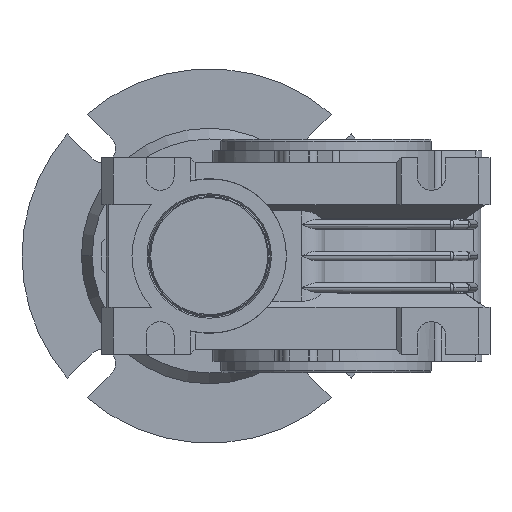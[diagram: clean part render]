
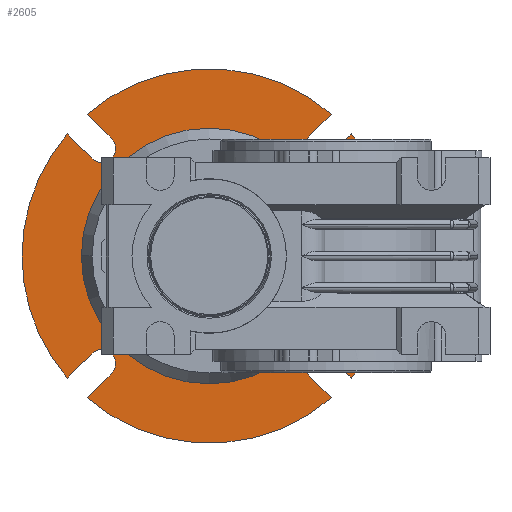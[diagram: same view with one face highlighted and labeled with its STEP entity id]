
A CAD part, left-side view. The second image highlights one B-rep face of the part: STEP entity #2605.
In plain terms, the highlighted planar face has unit normal (-1, 0, 0).
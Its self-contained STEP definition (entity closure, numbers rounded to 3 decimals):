
#2605=ADVANCED_FACE('',(#5234,#5235),#5236,.T.);
#5234=FACE_BOUND('',#8552,.T.);
#5235=FACE_OUTER_BOUND('',#8553,.T.);
#5236=PLANE('',#8554);
#8552=EDGE_LOOP('',(#16452,#16453));
#8553=EDGE_LOOP('',(#16454,#16455,#16456,#16457,#16458,#16459,#16460,#16461,#16462,#16463,#16464,#16465,#16466,#16467,#16468,#16469,#16470,#16471,#16472,#16473,#16474,#16475));
#8554=AXIS2_PLACEMENT_3D('',#16476,#16477,#16478);
#16452=ORIENTED_EDGE('',*,*,#19753,.F.);
#16453=ORIENTED_EDGE('',*,*,#19743,.F.);
#16454=ORIENTED_EDGE('',*,*,#19779,.T.);
#16455=ORIENTED_EDGE('',*,*,#19701,.T.);
#16456=ORIENTED_EDGE('',*,*,#19804,.T.);
#16457=ORIENTED_EDGE('',*,*,#19810,.T.);
#16458=ORIENTED_EDGE('',*,*,#19828,.T.);
#16459=ORIENTED_EDGE('',*,*,#19815,.T.);
#16460=ORIENTED_EDGE('',*,*,#19774,.T.);
#16461=ORIENTED_EDGE('',*,*,#19713,.T.);
#16462=ORIENTED_EDGE('',*,*,#19822,.T.);
#16463=ORIENTED_EDGE('',*,*,#19829,.T.);
#16464=ORIENTED_EDGE('',*,*,#19698,.T.);
#16465=ORIENTED_EDGE('',*,*,#19824,.T.);
#16466=ORIENTED_EDGE('',*,*,#19770,.T.);
#16467=ORIENTED_EDGE('',*,*,#19718,.T.);
#16468=ORIENTED_EDGE('',*,*,#19796,.T.);
#16469=ORIENTED_EDGE('',*,*,#19830,.T.);
#16470=ORIENTED_EDGE('',*,*,#19791,.T.);
#16471=ORIENTED_EDGE('',*,*,#19706,.T.);
#16472=ORIENTED_EDGE('',*,*,#19788,.T.);
#16473=ORIENTED_EDGE('',*,*,#19783,.T.);
#16474=ORIENTED_EDGE('',*,*,#19721,.T.);
#16475=ORIENTED_EDGE('',*,*,#19768,.T.);
#16476=CARTESIAN_POINT('',(966.173,-830.78,-2064.246));
#16477=DIRECTION('',(-1.0,0.0,0.));
#16478=DIRECTION('',(0.0,1.0,0.0));
#19698=EDGE_CURVE('',#24240,#24244,#24246,.T.);
#19701=EDGE_CURVE('',#24251,#24248,#24252,.T.);
#19706=EDGE_CURVE('',#24260,#24257,#24261,.T.);
#19713=EDGE_CURVE('',#24267,#24271,#24273,.T.);
#19718=EDGE_CURVE('',#24276,#24280,#24282,.T.);
#19721=EDGE_CURVE('',#24287,#24284,#24288,.T.);
#19743=EDGE_CURVE('',#24325,#24321,#24327,.T.);
#19753=EDGE_CURVE('',#24321,#24325,#24341,.T.);
#19768=EDGE_CURVE('',#24284,#24358,#24360,.T.);
#19770=EDGE_CURVE('',#24362,#24276,#24363,.T.);
#19774=EDGE_CURVE('',#24368,#24267,#24369,.T.);
#19779=EDGE_CURVE('',#24358,#24251,#24375,.T.);
#19783=EDGE_CURVE('',#24379,#24287,#24380,.T.);
#19788=EDGE_CURVE('',#24257,#24379,#24386,.T.);
#19791=EDGE_CURVE('',#24390,#24260,#24391,.T.);
#19796=EDGE_CURVE('',#24280,#24398,#24399,.T.);
#19804=EDGE_CURVE('',#24248,#24410,#24412,.T.);
#19810=EDGE_CURVE('',#24410,#24420,#24422,.T.);
#19815=EDGE_CURVE('',#24430,#24368,#24431,.T.);
#19822=EDGE_CURVE('',#24271,#24440,#24442,.T.);
#19824=EDGE_CURVE('',#24244,#24362,#24444,.T.);
#19828=EDGE_CURVE('',#24420,#24430,#24448,.T.);
#19829=EDGE_CURVE('',#24440,#24240,#24449,.T.);
#19830=EDGE_CURVE('',#24398,#24390,#24450,.T.);
#24240=VERTEX_POINT('',#31182);
#24244=VERTEX_POINT('',#31187);
#24246=CIRCLE('',#31190,40.0);
#24248=VERTEX_POINT('',#31192);
#24251=VERTEX_POINT('',#31196);
#24252=CIRCLE('',#31197,3.003);
#24257=VERTEX_POINT('',#31203);
#24260=VERTEX_POINT('',#31207);
#24261=CIRCLE('',#31208,3.003);
#24267=VERTEX_POINT('',#31215);
#24271=VERTEX_POINT('',#31220);
#24273=CIRCLE('',#31223,3.003);
#24276=VERTEX_POINT('',#31226);
#24280=VERTEX_POINT('',#31231);
#24282=CIRCLE('',#31234,3.003);
#24284=VERTEX_POINT('',#31236);
#24287=VERTEX_POINT('',#31240);
#24288=CIRCLE('',#31241,40.0);
#24321=VERTEX_POINT('',#31281);
#24325=VERTEX_POINT('',#31286);
#24327=CIRCLE('',#31289,27.31);
#24341=CIRCLE('',#31305,27.31);
#24358=VERTEX_POINT('',#31323);
#24360=CIRCLE('',#31326,40.0);
#24362=VERTEX_POINT('',#31328);
#24363=CIRCLE('',#31329,3.003);
#24368=VERTEX_POINT('',#31335);
#24369=CIRCLE('',#31336,3.003);
#24375=LINE('',#31344,#31345);
#24379=VERTEX_POINT('',#31351);
#24380=LINE('',#31352,#31353);
#24386=CIRCLE('',#31361,3.003);
#24390=VERTEX_POINT('',#31366);
#24391=LINE('',#31367,#31368);
#24398=VERTEX_POINT('',#31378);
#24399=LINE('',#31379,#31380);
#24410=VERTEX_POINT('',#31395);
#24412=CIRCLE('',#31398,3.003);
#24420=VERTEX_POINT('',#31409);
#24422=LINE('',#31412,#31413);
#24430=VERTEX_POINT('',#31424);
#24431=LINE('',#31425,#31426);
#24440=VERTEX_POINT('',#31439);
#24442=LINE('',#31442,#31443);
#24444=LINE('',#31445,#31446);
#24448=CIRCLE('',#31452,40.0);
#24449=CIRCLE('',#31453,40.0);
#24450=CIRCLE('',#31454,40.0);
#31182=CARTESIAN_POINT('',(966.173,-904.435,-2064.246));
#31187=CARTESIAN_POINT('',(966.173,-894.761,-2038.163));
#31190=AXIS2_PLACEMENT_3D('',#34982,#34983,#34984);
#31192=CARTESIAN_POINT('',(966.173,-844.457,-2087.227));
#31196=CARTESIAN_POINT('',(966.173,-839.234,-2085.204));
#31197=AXIS2_PLACEMENT_3D('',#34986,#34987,#34988);
#31203=CARTESIAN_POINT('',(966.173,-844.457,-2041.265));
#31207=CARTESIAN_POINT('',(966.173,-843.477,-2039.046));
#31208=AXIS2_PLACEMENT_3D('',#34994,#34995,#34996);
#31215=CARTESIAN_POINT('',(966.173,-884.412,-2087.227));
#31220=CARTESIAN_POINT('',(966.173,-889.635,-2085.204));
#31223=AXIS2_PLACEMENT_3D('',#35006,#35007,#35008);
#31226=CARTESIAN_POINT('',(966.173,-884.412,-2041.265));
#31231=CARTESIAN_POINT('',(966.173,-885.392,-2039.046));
#31234=AXIS2_PLACEMENT_3D('',#35014,#35015,#35016);
#31236=CARTESIAN_POINT('',(966.173,-824.435,-2064.246));
#31240=CARTESIAN_POINT('',(966.173,-834.109,-2038.163));
#31241=AXIS2_PLACEMENT_3D('',#35018,#35019,#35020);
#31281=CARTESIAN_POINT('',(966.173,-837.125,-2064.246));
#31286=CARTESIAN_POINT('',(966.173,-891.745,-2064.246));
#31289=AXIS2_PLACEMENT_3D('',#35054,#35055,#35056);
#31305=AXIS2_PLACEMENT_3D('',#35071,#35072,#35073);
#31323=CARTESIAN_POINT('',(966.173,-834.109,-2090.329));
#31326=AXIS2_PLACEMENT_3D('',#35100,#35101,#35102);
#31328=CARTESIAN_POINT('',(966.173,-889.635,-2043.288));
#31329=AXIS2_PLACEMENT_3D('',#35103,#35104,#35105);
#31335=CARTESIAN_POINT('',(966.173,-885.392,-2089.446));
#31336=AXIS2_PLACEMENT_3D('',#35110,#35111,#35112);
#31344=CARTESIAN_POINT('',(966.173,-841.079,-2083.359));
#31345=VECTOR('',#35118,1000.0);
#31351=CARTESIAN_POINT('',(966.173,-839.234,-2043.288));
#31352=CARTESIAN_POINT('',(966.173,-841.079,-2045.133));
#31353=VECTOR('',#35121,1000.0);
#31361=AXIS2_PLACEMENT_3D('',#35127,#35128,#35129);
#31366=CARTESIAN_POINT('',(966.173,-838.351,-2033.92));
#31367=CARTESIAN_POINT('',(966.173,-845.321,-2040.89));
#31368=VECTOR('',#35131,1000.0);
#31378=CARTESIAN_POINT('',(966.173,-890.518,-2033.92));
#31379=CARTESIAN_POINT('',(966.173,-866.721,-2057.717));
#31380=VECTOR('',#35135,1000.0);
#31395=CARTESIAN_POINT('',(966.173,-843.477,-2089.446));
#31398=AXIS2_PLACEMENT_3D('',#35144,#35145,#35146);
#31409=CARTESIAN_POINT('',(966.173,-838.351,-2094.572));
#31412=CARTESIAN_POINT('',(966.173,-845.321,-2087.602));
#31413=VECTOR('',#35151,1000.0);
#31424=CARTESIAN_POINT('',(966.173,-890.518,-2094.572));
#31425=CARTESIAN_POINT('',(966.173,-866.721,-2070.774));
#31426=VECTOR('',#35155,1000.0);
#31439=CARTESIAN_POINT('',(966.173,-894.761,-2090.329));
#31442=CARTESIAN_POINT('',(966.173,-870.963,-2066.532));
#31443=VECTOR('',#35161,1000.0);
#31445=CARTESIAN_POINT('',(966.173,-870.963,-2061.96));
#31446=VECTOR('',#35162,1000.0);
#31452=AXIS2_PLACEMENT_3D('',#35165,#35166,#35167);
#31453=AXIS2_PLACEMENT_3D('',#35168,#35169,#35170);
#31454=AXIS2_PLACEMENT_3D('',#35171,#35172,#35173);
#34982=CARTESIAN_POINT('',(966.173,-864.435,-2064.246));
#34983=DIRECTION('',(-1.0,0.0,0.));
#34984=DIRECTION('',(0.0,1.0,0.0));
#34986=CARTESIAN_POINT('',(966.173,-841.454,-2087.227));
#34987=DIRECTION('',(1.0,-0.0,0.));
#34988=DIRECTION('',(0.0,1.0,0.0));
#34994=CARTESIAN_POINT('',(966.173,-841.454,-2041.265));
#34995=DIRECTION('',(1.0,-0.0,0.));
#34996=DIRECTION('',(0.0,1.0,0.0));
#35006=CARTESIAN_POINT('',(966.173,-887.416,-2087.227));
#35007=DIRECTION('',(1.0,-0.0,0.));
#35008=DIRECTION('',(0.0,1.0,0.0));
#35014=CARTESIAN_POINT('',(966.173,-887.416,-2041.265));
#35015=DIRECTION('',(1.0,-0.0,0.));
#35016=DIRECTION('',(0.0,1.0,0.0));
#35018=CARTESIAN_POINT('',(966.173,-864.435,-2064.246));
#35019=DIRECTION('',(-1.0,0.0,0.));
#35020=DIRECTION('',(0.0,1.0,0.0));
#35054=CARTESIAN_POINT('',(966.173,-864.435,-2064.246));
#35055=DIRECTION('',(-1.0,0.0,0.));
#35056=DIRECTION('',(0.0,1.0,0.0));
#35071=CARTESIAN_POINT('',(966.173,-864.435,-2064.246));
#35072=DIRECTION('',(-1.0,0.0,0.));
#35073=DIRECTION('',(0.0,1.0,0.0));
#35100=CARTESIAN_POINT('',(966.173,-864.435,-2064.246));
#35101=DIRECTION('',(-1.0,0.0,0.));
#35102=DIRECTION('',(0.0,1.0,0.0));
#35103=CARTESIAN_POINT('',(966.173,-887.416,-2041.265));
#35104=DIRECTION('',(1.0,-0.0,0.));
#35105=DIRECTION('',(0.0,1.0,0.0));
#35110=CARTESIAN_POINT('',(966.173,-887.416,-2087.227));
#35111=DIRECTION('',(1.0,-0.0,0.));
#35112=DIRECTION('',(0.0,1.0,0.0));
#35118=DIRECTION('',(0.,-0.707,0.707));
#35121=DIRECTION('',(0.,0.707,0.707));
#35127=CARTESIAN_POINT('',(966.173,-841.454,-2041.265));
#35128=DIRECTION('',(1.0,-0.0,0.));
#35129=DIRECTION('',(0.0,1.0,0.0));
#35131=DIRECTION('',(0.,-0.707,-0.707));
#35135=DIRECTION('',(0.,-0.707,0.707));
#35144=CARTESIAN_POINT('',(966.173,-841.454,-2087.227));
#35145=DIRECTION('',(1.0,-0.0,0.));
#35146=DIRECTION('',(0.0,1.0,0.0));
#35151=DIRECTION('',(0.,0.707,-0.707));
#35155=DIRECTION('',(0.,0.707,0.707));
#35161=DIRECTION('',(0.,-0.707,-0.707));
#35162=DIRECTION('',(0.,0.707,-0.707));
#35165=CARTESIAN_POINT('',(966.173,-864.435,-2064.246));
#35166=DIRECTION('',(-1.0,0.0,0.));
#35167=DIRECTION('',(0.0,1.0,0.0));
#35168=CARTESIAN_POINT('',(966.173,-864.435,-2064.246));
#35169=DIRECTION('',(-1.0,0.0,0.));
#35170=DIRECTION('',(0.0,1.0,0.0));
#35171=CARTESIAN_POINT('',(966.173,-864.435,-2064.246));
#35172=DIRECTION('',(-1.0,0.0,0.));
#35173=DIRECTION('',(0.0,1.0,0.0));
